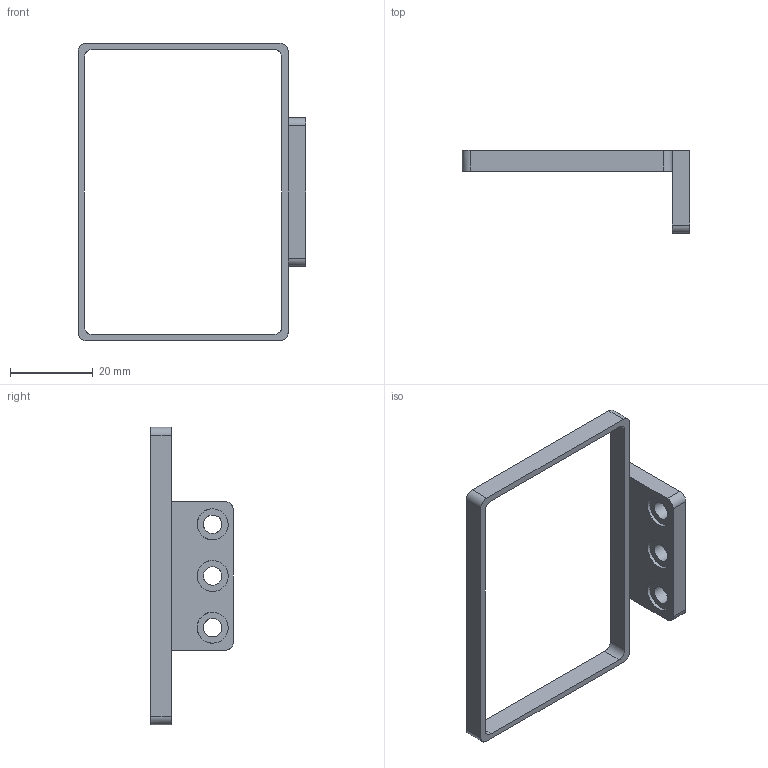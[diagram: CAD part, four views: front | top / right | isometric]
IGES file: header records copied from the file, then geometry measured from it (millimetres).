
Global section: file name: mirror2; native system: Autodesk Inventor 2024; preprocessor: unknown; author: xuwenjie; date: 20260407.150943; units: millimetre
Bounding box: 55.1 x 20 x 72 mm (x, y, z)
Volume: 4612.6 mm3; surface area: 4741.1 mm2
Topology: 1 solids, 1 shells, 35 faces, 91 edges, 61 vertices
Faces by surface type: bspline 35
